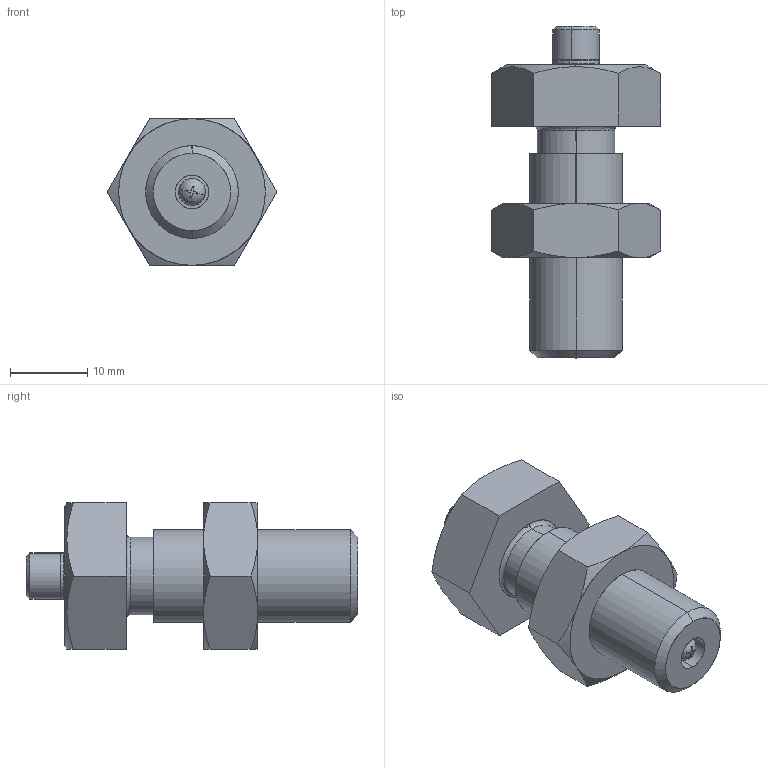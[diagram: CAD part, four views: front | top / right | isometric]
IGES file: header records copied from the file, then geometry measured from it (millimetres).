
Start section: SolidWorks IGES file using analytic representation for surfaces
Bounding box: 21.94 x 43 x 19 mm (x, y, z)
Surface area: 3744.4 mm2 (no closed solid volume)
Topology: 0 solids, 0 shells, 75 faces, 1224 edges, 1224 vertices
Faces by surface type: revolution 42, bspline 33
